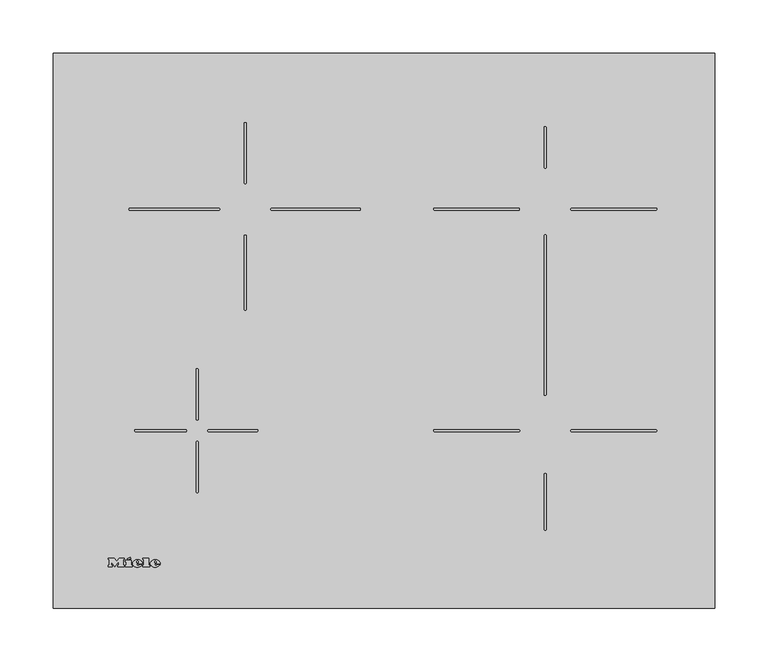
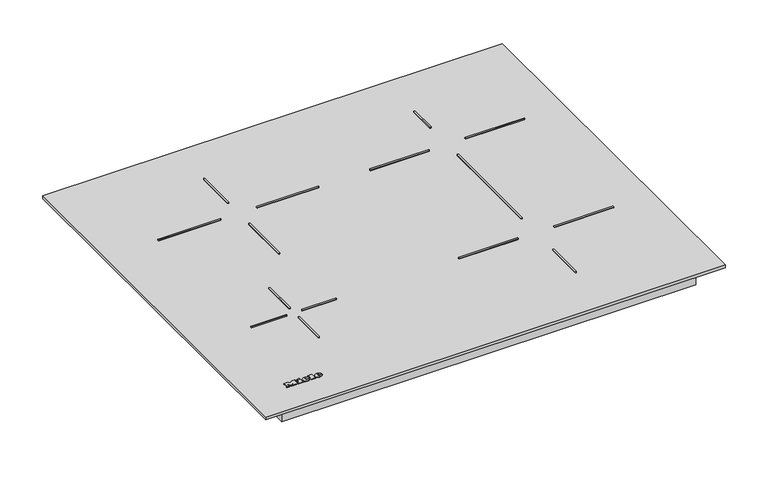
"""IFC4 building model written with IfcOpenShell, lengths in millimetres: proxy geometry, 12399720_GB_KM7363FL : 26736370_GB_12399720_KM7363FL."""

from ifc_helpers import new_model, si_unit, point, frame, frame_2d, origin, origin_with_axes, place, context, project, spatial, polyline, circle_curve, ellipse_curve, trimmed, segment, composite_curve, outline, extrude, source, transform, mapped, element, save
from ifc_brep_helpers import plane_surface, cylinder_surface, revolved_surface, extruded_surface, advanced_brep


def specialty_equipment_5ce986eb(model_context):
    return source(origin(), model_context, "Body", "SolidModel", [
        advanced_brep(
        [(-214.911984, 41.066, 5.0000007), (-214.911984, 41.874, 5.0000007), (-209.559984, 41.874, 5.0000007), (-218.871984, 41.874, 5.0000007), (-216.671984, 39.17, 5.0000007), (-209.695984, 41.066, 5.0000007), (-212.111984, 41.066, 5.0000007), (-214.015984, 40.17, 5.0000007), (-214.911984, 42.898, 5.0000007), (-214.911984, 43.77, 5.0000007), (-213.543984, 43.77, 5.0000007), (-213.543984, 42.898, 5.0000007), (-214.911984, 41.066, 4.0000007), (-214.015984, 40.17, 4.0000007), (-212.111984, 41.066, 4.0000007), (-209.695984, 41.066, 4.0000007), (-216.671984, 39.17, 4.0000007), (-218.871984, 41.874, 4.0000007), (-209.559984, 41.874, 4.0000007), (-214.911984, 41.874, 4.0000007), (-214.911984, 42.898, 4.0000007), (-213.543984, 42.898, 4.0000007), (-213.543984, 43.77, 4.0000007), (-214.911984, 43.77, 4.0000007)],
        [
            (0, 1),
            (1, 2),
            (2, 3, ellipse_curve(frame((-214.215984, 41.874, 5.0000007), z_axis=(0.0, 0.0, 1.0), x_axis=(-1.0, 0.0, 0.0)), 4.656, 3.848)),
            (3, 4, circle_curve(frame((-215.7759404, 42.146, 5.0000007), z_axis=(0.0, 0.0, 1.0), x_axis=(0.0, -1.0, 0.0)), 3.1079688)),
            (4, 5, circle_curve(frame((-214.3091904, 44.258, 5.0000007), z_axis=(0.0, 0.0, 1.0), x_axis=(0.0, -1.0, 0.0)), 5.6098607)),
            (5, 6),
            (6, 7, circle_curve(frame((-213.6249252, 41.81, 5.0000007), z_axis=(0.0, 0.0, -1.0), x_axis=(0.0, -1.0, 0.0)), 1.6859795)),
            (7, 0, circle_curve(frame((-214.015984, 41.066, 5.0000007), z_axis=(0.0, 0.0, -1.0), x_axis=(0.0, -1.0, 0.0)), 0.896)),
            (8, 9),
            (9, 10, circle_curve(frame((-214.227984, 43.77, 5.0000007), z_axis=(0.0, 0.0, -1.0), x_axis=(0.0, -1.0, 0.0)), 0.684)),
            (10, 11),
            (11, 8),
            (12, 13, circle_curve(frame((-214.015984, 41.066, 4.0000007), z_axis=(0.0, 0.0, 1.0), x_axis=(0.0, -1.0, 0.0)), 0.896)),
            (13, 14, circle_curve(frame((-213.6249252, 41.81, 4.0000007), z_axis=(0.0, 0.0, 1.0), x_axis=(0.0, -1.0, 0.0)), 1.6859795)),
            (14, 15),
            (15, 16, circle_curve(frame((-214.3091904, 44.258, 4.0000007), z_axis=(0.0, 0.0, -1.0), x_axis=(0.0, -1.0, 0.0)), 5.6098607)),
            (16, 17, circle_curve(frame((-215.7759404, 42.146, 4.0000007), z_axis=(0.0, 0.0, -1.0), x_axis=(0.0, -1.0, 0.0)), 3.1079688)),
            (17, 18, ellipse_curve(frame((-214.215984, 41.874, 4.0000007), z_axis=(0.0, 0.0, -1.0), x_axis=(-1.0, 0.0, 0.0)), 4.656, 3.848)),
            (18, 19),
            (19, 12),
            (20, 21),
            (21, 22),
            (22, 23, circle_curve(frame((-214.227984, 43.77, 4.0000007), z_axis=(0.0, 0.0, 1.0), x_axis=(0.0, -1.0, 0.0)), 0.684)),
            (23, 20),
            (0, 12),
            (19, 1),
            (18, 2),
            (5, 15),
            (14, 6),
            (17, 3),
            (13, 7),
            (16, 4),
            (8, 20),
            (23, 9),
            (22, 10),
            (21, 11),
        ],
        [
            plane_surface(frame((-214.911984, 41.874, 5.0000007), z_axis=(0.0, 0.0, 1.0), x_axis=(0.0, 1.0, 0.0))),
            plane_surface(frame((-214.911984, 41.874, 4.0000007), z_axis=(0.0, 0.0, -1.0), x_axis=(0.0, -1.0, 0.0))),
            plane_surface(frame((-214.911984, 41.066, 5.0000007), z_axis=(1.0, 0.0, 0.0), x_axis=(0.0, 0.0, -1.0))),
            plane_surface(frame((-214.911984, 41.874, 5.0000007), z_axis=(0.0, -1.0, 0.0), x_axis=(0.0, 0.0, -1.0))),
            plane_surface(frame((-209.695984, 41.066, 5.0000007), z_axis=(0.0, 1.0, 0.0), x_axis=(0.0, 0.0, -1.0))),
            extruded_surface(trimmed(ellipse_curve(frame((-214.215984, 41.874, 3.0000007), z_axis=(0.0, 0.0, 1.0), x_axis=(-1.0, 0.0, 0.0)), 4.656, 3.848), [point((-209.559984, 41.874, 3.0000007))], [point((-218.871984, 41.874, 3.0000007))], True, "CARTESIAN"), (0.0, 0.0, 1.0), 1.0),
            revolved_surface(polyline([(-213.6249252, 40.1240205, 4.0000007), (-213.6249252, 40.1240205, 5.0000007)]), (-213.6249252, 41.81, 4.0000007), (0.0, 0.0, -1.0)),
            revolved_surface(polyline([(-214.015984, 40.17, 4.0000007), (-214.015984, 40.17, 5.0000007)]), (-214.015984, 41.066, 4.0000007), (0.0, 0.0, -1.0)),
            cylinder_surface(frame((-215.7759404, 42.146, 4.0000007), z_axis=(0.0, 0.0, 1.0), x_axis=(0.0, -1.0, 0.0)), 3.1079688),
            cylinder_surface(frame((-214.3091904, 44.258, 4.0000007), z_axis=(0.0, 0.0, 1.0), x_axis=(0.0, -1.0, 0.0)), 5.6098607),
            plane_surface(frame((-214.911984, 42.898, 5.0000007), z_axis=(1.0, 0.0, 0.0), x_axis=(0.0, 0.0, -1.0))),
            revolved_surface(polyline([(-214.227984, 43.086000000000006, 4.0000007), (-214.227984, 43.086000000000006, 5.0000007)]), (-214.227984, 43.77, 4.0000007), (0.0, 0.0, -1.0)),
            plane_surface(frame((-213.543984, 43.77, 5.0000007), z_axis=(-1.0, 0.0, 0.0), x_axis=(0.0, 0.0, -1.0))),
            plane_surface(frame((-213.543984, 42.898, 5.0000007), z_axis=(0.0, 1.0, 0.0), x_axis=(0.0, 0.0, -1.0))),
        ],
        [
            (0, [[1, 2, 3, 4, 5, 6, 7, 8], [9, 10, 11, 12]]),
            (1, [[13, 14, 15, 16, 17, 18, 19, 20], [21, 22, 23, 24]]),
            (2, [[-1, 25, -20, 26]]),
            (3, [[-2, -26, -19, 27]]),
            (4, [[-6, 28, -15, 29]]),
            (5, [[-3, -27, -18, 30]]),
            (6, [[-7, -29, -14, 31]]),
            (7, [[-8, -31, -13, -25]]),
            (8, [[-4, -30, -17, 32]]),
            (9, [[-5, -32, -16, -28]]),
            (10, [[-9, 33, -24, 34]]),
            (11, [[-10, -34, -23, 35]]),
            (12, [[-11, -35, -22, 36]]),
            (13, [[-12, -36, -21, -33]]),
        ],
    ),
        advanced_brep(
        [(-231.607984, 41.066, 5.0000007), (-231.607984, 41.874, 5.0000007), (-226.255984, 41.874, 5.0000007), (-235.567984, 41.874, 5.0000007), (-233.367984, 39.17, 5.0000007), (-226.391984, 41.066, 5.0000007), (-228.807984, 41.066, 5.0000007), (-230.711984, 40.17, 5.0000007), (-231.607984, 42.898, 5.0000007), (-231.607984, 43.77, 5.0000007), (-230.239984, 43.77, 5.0000007), (-230.239984, 42.898, 5.0000007), (-231.607984, 41.066, 4.0000007), (-230.711984, 40.17, 4.0000007), (-228.807984, 41.066, 4.0000007), (-226.391984, 41.066, 4.0000007), (-233.367984, 39.17, 4.0000007), (-235.567984, 41.874, 4.0000007), (-226.255984, 41.874, 4.0000007), (-231.607984, 41.874, 4.0000007), (-231.607984, 42.898, 4.0000007), (-230.239984, 42.898, 4.0000007), (-230.239984, 43.77, 4.0000007), (-231.607984, 43.77, 4.0000007)],
        [
            (0, 1),
            (1, 2),
            (2, 3, ellipse_curve(frame((-230.911984, 41.874, 5.0000007), z_axis=(0.0, 0.0, 1.0), x_axis=(-1.0, 0.0, 0.0)), 4.656, 3.848)),
            (3, 4, circle_curve(frame((-232.4719404, 42.146, 5.0000007), z_axis=(0.0, 0.0, 1.0), x_axis=(0.0, -1.0, 0.0)), 3.1079688)),
            (4, 5, circle_curve(frame((-231.0051904, 44.258, 5.0000007), z_axis=(0.0, 0.0, 1.0), x_axis=(0.0, -1.0, 0.0)), 5.6098607)),
            (5, 6),
            (6, 7, circle_curve(frame((-230.3209252, 41.81, 5.0000007), z_axis=(0.0, 0.0, -1.0), x_axis=(0.0, -1.0, 0.0)), 1.6859795)),
            (7, 0, circle_curve(frame((-230.711984, 41.066, 5.0000007), z_axis=(0.0, 0.0, -1.0), x_axis=(0.0, -1.0, 0.0)), 0.896)),
            (8, 9),
            (9, 10, circle_curve(frame((-230.923984, 43.77, 5.0000007), z_axis=(0.0, 0.0, -1.0), x_axis=(0.0, -1.0, 0.0)), 0.684)),
            (10, 11),
            (11, 8),
            (12, 13, circle_curve(frame((-230.711984, 41.066, 4.0000007), z_axis=(0.0, 0.0, 1.0), x_axis=(0.0, -1.0, 0.0)), 0.896)),
            (13, 14, circle_curve(frame((-230.3209252, 41.81, 4.0000007), z_axis=(0.0, 0.0, 1.0), x_axis=(0.0, -1.0, 0.0)), 1.6859795)),
            (14, 15),
            (15, 16, circle_curve(frame((-231.0051904, 44.258, 4.0000007), z_axis=(0.0, 0.0, -1.0), x_axis=(0.0, -1.0, 0.0)), 5.6098607)),
            (16, 17, circle_curve(frame((-232.4719404, 42.146, 4.0000007), z_axis=(0.0, 0.0, -1.0), x_axis=(0.0, -1.0, 0.0)), 3.1079688)),
            (17, 18, ellipse_curve(frame((-230.911984, 41.874, 4.0000007), z_axis=(0.0, 0.0, -1.0), x_axis=(-1.0, 0.0, 0.0)), 4.656, 3.848)),
            (18, 19),
            (19, 12),
            (20, 21),
            (21, 22),
            (22, 23, circle_curve(frame((-230.923984, 43.77, 4.0000007), z_axis=(0.0, 0.0, 1.0), x_axis=(0.0, -1.0, 0.0)), 0.684)),
            (23, 20),
            (0, 12),
            (19, 1),
            (18, 2),
            (5, 15),
            (14, 6),
            (17, 3),
            (13, 7),
            (16, 4),
            (8, 20),
            (23, 9),
            (22, 10),
            (21, 11),
        ],
        [
            plane_surface(frame((-231.607984, 41.874, 5.0000007), z_axis=(0.0, 0.0, 1.0), x_axis=(0.0, 1.0, 0.0))),
            plane_surface(frame((-231.607984, 41.874, 4.0000007), z_axis=(0.0, 0.0, -1.0), x_axis=(0.0, -1.0, 0.0))),
            plane_surface(frame((-231.607984, 41.066, 5.0000007), z_axis=(1.0, 0.0, 0.0), x_axis=(0.0, 0.0, -1.0))),
            plane_surface(frame((-231.607984, 41.874, 5.0000007), z_axis=(0.0, -1.0, 0.0), x_axis=(0.0, 0.0, -1.0))),
            plane_surface(frame((-226.391984, 41.066, 5.0000007), z_axis=(0.0, 1.0, 0.0), x_axis=(0.0, 0.0, -1.0))),
            extruded_surface(trimmed(ellipse_curve(frame((-230.911984, 41.874, 3.0000007), z_axis=(0.0, 0.0, 1.0), x_axis=(-1.0, 0.0, 0.0)), 4.656, 3.848), [point((-226.255984, 41.874, 3.0000007))], [point((-235.567984, 41.874, 3.0000007))], True, "CARTESIAN"), (0.0, 0.0, 1.0), 1.0),
            revolved_surface(polyline([(-230.3209252, 40.1240205, 4.0000007), (-230.3209252, 40.1240205, 5.0000007)]), (-230.3209252, 41.81, 4.0000007), (0.0, 0.0, -1.0)),
            revolved_surface(polyline([(-230.711984, 40.17, 4.0000007), (-230.711984, 40.17, 5.0000007)]), (-230.711984, 41.066, 4.0000007), (0.0, 0.0, -1.0)),
            cylinder_surface(frame((-232.4719404, 42.146, 4.0000007), z_axis=(0.0, 0.0, 1.0), x_axis=(0.0, -1.0, 0.0)), 3.1079688),
            cylinder_surface(frame((-231.0051904, 44.258, 4.0000007), z_axis=(0.0, 0.0, 1.0), x_axis=(0.0, -1.0, 0.0)), 5.6098607),
            plane_surface(frame((-231.607984, 42.898, 5.0000007), z_axis=(1.0, 0.0, 0.0), x_axis=(0.0, 0.0, -1.0))),
            revolved_surface(polyline([(-230.923984, 43.086000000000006, 4.0000007), (-230.923984, 43.086000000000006, 5.0000007)]), (-230.923984, 43.77, 4.0000007), (0.0, 0.0, -1.0)),
            plane_surface(frame((-230.239984, 43.77, 5.0000007), z_axis=(-1.0, 0.0, 0.0), x_axis=(0.0, 0.0, -1.0))),
            plane_surface(frame((-230.239984, 42.898, 5.0000007), z_axis=(0.0, 1.0, 0.0), x_axis=(0.0, 0.0, -1.0))),
        ],
        [
            (0, [[1, 2, 3, 4, 5, 6, 7, 8], [9, 10, 11, 12]]),
            (1, [[13, 14, 15, 16, 17, 18, 19, 20], [21, 22, 23, 24]]),
            (2, [[-1, 25, -20, 26]]),
            (3, [[-2, -26, -19, 27]]),
            (4, [[-6, 28, -15, 29]]),
            (5, [[-3, -27, -18, 30]]),
            (6, [[-7, -29, -14, 31]]),
            (7, [[-8, -31, -13, -25]]),
            (8, [[-4, -30, -17, 32]]),
            (9, [[-5, -32, -16, -28]]),
            (10, [[-9, 33, -24, 34]]),
            (11, [[-10, -34, -23, 35]]),
            (12, [[-11, -35, -22, 36]]),
            (13, [[-12, -36, -21, -33]]),
        ],
    ),
        extrude(outline(polyline([(-240.351984, 46.698), (-237.631984, 47.962), (-237.031984, 46.666), (-239.743984, 45.402), (-240.351984, 46.698)])), frame((0.0, 0.0, 4.0000007), z_axis=(0.0, 0.0, 1.0), x_axis=(1.0, 0.0, 0.0)), (0.0, 0.0, 1.0), 1.0),
        extrude(outline(polyline([(-242.327984, 45.226), (-236.943984, 45.226), (-236.943984, 40.514), (-236.015984, 40.514), (-236.015984, 39.17), (-242.327984, 39.17), (-242.327984, 40.514), (-241.375984, 40.514), (-241.375984, 43.794), (-242.327984, 43.794), (-242.327984, 45.226)])), frame((0.0, 0.0, 4.0000007), z_axis=(0.0, 0.0, 1.0), x_axis=(1.0, 0.0, 0.0)), (0.0, 0.0, 1.0), 1.0),
        extrude(outline(polyline([(-225.807984, 45.866), (-225.807984, 47.17), (-220.303984, 47.17), (-220.303984, 40.514), (-219.319984, 40.514), (-219.319984, 39.17), (-225.807984, 39.17), (-225.807984, 40.514), (-224.847984, 40.514), (-224.847984, 45.866), (-225.807984, 45.866)])), frame((0.0, 0.0, 4.0000007), z_axis=(0.0, 0.0, 1.0), x_axis=(1.0, 0.0, 0.0)), (0.0, 0.0, 1.0), 1.0),
        extrude(outline(polyline([(-258.271984, 45.866), (-258.271984, 47.17), (-252.695984, 47.17), (-250.351984, 44.17), (-248.015984, 47.17), (-243.143984, 47.17), (-243.143984, 45.866), (-244.159984, 45.866), (-244.159984, 40.514), (-243.143984, 40.514), (-243.143984, 39.17), (-249.527984, 39.17), (-249.527984, 40.514), (-248.543984, 40.514), (-248.543984, 43.9852223), (-252.135984, 39.17), (-255.711984, 43.9171247), (-255.711984, 40.514), (-254.751984, 40.514), (-254.751984, 39.17), (-258.271984, 39.17), (-258.271984, 40.514), (-257.303984, 40.514), (-257.303984, 45.866), (-258.271984, 45.866)])), frame((0.0, 0.0, 4.0000007), z_axis=(0.0, 0.0, 1.0), x_axis=(1.0, 0.0, 0.0)), (0.0, 0.0, 1.0), 1.0),
        extrude(outline(composite_curve([segment(trimmed(circle_curve(frame_2d((-130.0, 454.215881)), 1.0), [point((-131.0, 454.215881))], [point((-129.0, 454.215881))], False, "CARTESIAN"), True, "CONTINUOUS"), segment(polyline([(-129.0, 454.215881), (-129.0, 399.0)]), True, "CONTINUOUS"), segment(trimmed(circle_curve(frame_2d((-130.0, 399.0)), 1.0), [point((-129.0, 399.0))], [point((-131.0, 399.0))], False, "CARTESIAN"), True, "CONTINUOUS"), segment(polyline([(-131.0, 399.0), (-131.0, 454.215881)]), True, "CONTINUOUS")], self_intersect=False)), frame((0.0, 0.0, 4.0000007), z_axis=(0.0, 0.0, 1.0), x_axis=(1.0, 0.0, 0.0)), (0.0, 0.0, 1.0), 1.0),
        extrude(outline(composite_curve([segment(polyline([(-23.0464469, 373.0), (-105.0, 373.0)]), True, "CONTINUOUS"), segment(trimmed(circle_curve(frame_2d((-105.0, 374.0)), 1.0), [point((-105.0, 373.0))], [point((-105.0, 375.0))], False, "CARTESIAN"), True, "CONTINUOUS"), segment(polyline([(-105.0, 375.0), (-23.0464469, 375.0)]), True, "CONTINUOUS"), segment(trimmed(circle_curve(frame_2d((-23.0464469, 374.0)), 1.0), [point((-23.0464469, 375.0))], [point((-23.0464469, 373.0))], False, "CARTESIAN"), True, "CONTINUOUS")], self_intersect=False)), frame((0.0, 0.0, 4.0000007), z_axis=(0.0, 0.0, 1.0), x_axis=(1.0, 0.0, 0.0)), (0.0, 0.0, 1.0), 1.0),
        extrude(outline(composite_curve([segment(trimmed(circle_curve(frame_2d((-237.9080744, 374.0)), 1.0), [point((-237.9080744, 373.0))], [point((-237.9080744, 375.0))], False, "CARTESIAN"), True, "CONTINUOUS"), segment(polyline([(-237.9080744, 375.0), (-155.0, 375.0)]), True, "CONTINUOUS"), segment(trimmed(circle_curve(frame_2d((-155.0, 374.0)), 1.0), [point((-155.0, 375.0))], [point((-155.0, 373.0))], False, "CARTESIAN"), True, "CONTINUOUS"), segment(polyline([(-155.0, 373.0), (-237.9080744, 373.0)]), True, "CONTINUOUS")], self_intersect=False)), frame((0.0, 0.0, 4.0000007), z_axis=(0.0, 0.0, 1.0), x_axis=(1.0, 0.0, 0.0)), (0.0, 0.0, 1.0), 1.0),
        extrude(outline(composite_curve([segment(polyline([(-176.0, 177.5), (-176.0, 223.6606747)]), True, "CONTINUOUS"), segment(trimmed(circle_curve(frame_2d((-175.0, 223.6606747)), 1.0), [point((-176.0, 223.6606747))], [point((-174.0, 223.6606747))], False, "CARTESIAN"), True, "CONTINUOUS"), segment(polyline([(-174.0, 223.6606747), (-174.0, 177.5)]), True, "CONTINUOUS"), segment(trimmed(circle_curve(frame_2d((-175.0, 177.5)), 1.0), [point((-174.0, 177.5))], [point((-176.0, 177.5))], False, "CARTESIAN"), True, "CONTINUOUS")], self_intersect=False)), frame((0.0, 0.0, 4.0000007), z_axis=(0.0, 0.0, 1.0), x_axis=(1.0, 0.0, 0.0)), (0.0, 0.0, 1.0), 1.0),
        extrude(outline(composite_curve([segment(trimmed(circle_curve(frame_2d((-175.0, 155.4410817)), 1.0), [point((-176.0, 155.4410817))], [point((-174.0, 155.4410817))], False, "CARTESIAN"), True, "CONTINUOUS"), segment(polyline([(-174.0, 155.4410817), (-174.0, 109.5)]), True, "CONTINUOUS"), segment(trimmed(circle_curve(frame_2d((-175.0, 109.5)), 1.0), [point((-174.0, 109.5))], [point((-176.0, 109.5))], False, "CARTESIAN"), True, "CONTINUOUS"), segment(polyline([(-176.0, 109.5), (-176.0, 155.4410817)]), True, "CONTINUOUS")], self_intersect=False)), frame((0.0, 0.0, 4.0000007), z_axis=(0.0, 0.0, 1.0), x_axis=(1.0, 0.0, 0.0)), (0.0, 0.0, 1.0), 1.0),
        extrude(outline(composite_curve([segment(polyline([(150.0, 413.4860171), (150.0, 450.2771149)]), True, "CONTINUOUS"), segment(trimmed(circle_curve(frame_2d((151.0, 450.2771149)), 1.0), [point((150.0, 450.2771149))], [point((152.0, 450.2771149))], False, "CARTESIAN"), True, "CONTINUOUS"), segment(polyline([(152.0, 450.2771149), (152.0, 413.4860171)]), True, "CONTINUOUS"), segment(trimmed(circle_curve(frame_2d((151.0, 413.4860171)), 1.0), [point((152.0, 413.4860171))], [point((150.0, 413.4860171))], False, "CARTESIAN"), True, "CONTINUOUS")], self_intersect=False)), frame((0.0, 0.0, 4.0000007), z_axis=(0.0, 0.0, 1.0), x_axis=(1.0, 0.0, 0.0)), (0.0, 0.0, 1.0), 1.0),
        extrude(outline(composite_curve([segment(trimmed(circle_curve(frame_2d((-164.0, 166.5)), 1.0), [point((-164.0, 165.5))], [point((-164.0, 167.5))], False, "CARTESIAN"), True, "CONTINUOUS"), segment(polyline([(-164.0, 167.5), (-119.1108224, 167.5)]), True, "CONTINUOUS"), segment(trimmed(circle_curve(frame_2d((-119.1108224, 166.5)), 1.0), [point((-119.1108224, 167.5))], [point((-119.1108224, 165.5))], False, "CARTESIAN"), True, "CONTINUOUS"), segment(polyline([(-119.1108224, 165.5), (-164.0, 165.5)]), True, "CONTINUOUS")], self_intersect=False)), frame((0.0, 0.0, 4.0000007), z_axis=(0.0, 0.0, 1.0), x_axis=(1.0, 0.0, 0.0)), (0.0, 0.0, 1.0), 1.0),
        extrude(outline(composite_curve([segment(polyline([(-186.0, 165.5), (-232.6272894, 165.5)]), True, "CONTINUOUS"), segment(trimmed(circle_curve(frame_2d((-232.6272894, 166.5)), 1.0), [point((-232.6272894, 165.5))], [point((-232.6272894, 167.5))], False, "CARTESIAN"), True, "CONTINUOUS"), segment(polyline([(-232.6272894, 167.5), (-186.0, 167.5)]), True, "CONTINUOUS"), segment(trimmed(circle_curve(frame_2d((-186.0, 166.5)), 1.0), [point((-186.0, 167.5))], [point((-186.0, 165.5))], False, "CARTESIAN"), True, "CONTINUOUS")], self_intersect=False)), frame((0.0, 0.0, 4.0000007), z_axis=(0.0, 0.0, 1.0), x_axis=(1.0, 0.0, 0.0)), (0.0, 0.0, 1.0), 1.0),
        extrude(outline(composite_curve([segment(polyline([(126.0, 165.5), (47.5296024, 165.5)]), True, "CONTINUOUS"), segment(trimmed(circle_curve(frame_2d((47.5296024, 166.5)), 1.0), [point((47.5296024, 165.5))], [point((47.5296024, 167.5))], False, "CARTESIAN"), True, "CONTINUOUS"), segment(polyline([(47.5296024, 167.5), (126.0, 167.5)]), True, "CONTINUOUS"), segment(trimmed(circle_curve(frame_2d((126.0, 166.5)), 1.0), [point((126.0, 167.5))], [point((126.0, 165.5))], False, "CARTESIAN"), True, "CONTINUOUS")], self_intersect=False)), frame((0.0, 0.0, 4.0000007), z_axis=(0.0, 0.0, 1.0), x_axis=(1.0, 0.0, 0.0)), (0.0, 0.0, 1.0), 1.0),
        extrude(outline(composite_curve([segment(polyline([(150.0, 74.2663736), (150.0, 125.4452272)]), True, "CONTINUOUS"), segment(trimmed(circle_curve(frame_2d((151.0, 125.4452272)), 1.0), [point((150.0, 125.4452272))], [point((152.0, 125.4452272))], False, "CARTESIAN"), True, "CONTINUOUS"), segment(polyline([(152.0, 125.4452272), (152.0, 74.2663736)]), True, "CONTINUOUS"), segment(trimmed(circle_curve(frame_2d((151.0, 74.2663736)), 1.0), [point((152.0, 74.2663736))], [point((150.0, 74.2663736))], False, "CARTESIAN"), True, "CONTINUOUS")], self_intersect=False)), frame((0.0, 0.0, 4.0000007), z_axis=(0.0, 0.0, 1.0), x_axis=(1.0, 0.0, 0.0)), (0.0, 0.0, 1.0), 1.0),
        extrude(outline(composite_curve([segment(polyline([(152.0, 349.0843418), (152.0, 200.5399283)]), True, "CONTINUOUS"), segment(trimmed(circle_curve(frame_2d((151.0, 200.5399283)), 1.0), [point((152.0, 200.5399283))], [point((150.0, 200.5399283))], False, "CARTESIAN"), True, "CONTINUOUS"), segment(polyline([(150.0, 200.5399283), (150.0, 349.0843418)]), True, "CONTINUOUS"), segment(trimmed(circle_curve(frame_2d((151.0, 349.0843418)), 1.0), [point((150.0, 349.0843418))], [point((152.0, 349.0843418))], False, "CARTESIAN"), True, "CONTINUOUS")], self_intersect=False)), frame((0.0, 0.0, 4.0000007), z_axis=(0.0, 0.0, 1.0), x_axis=(1.0, 0.0, 0.0)), (0.0, 0.0, 1.0), 1.0),
        extrude(outline(composite_curve([segment(trimmed(circle_curve(frame_2d((176.0, 166.5)), 1.0), [point((176.0, 165.5))], [point((176.0, 167.5))], False, "CARTESIAN"), True, "CONTINUOUS"), segment(polyline([(176.0, 167.5), (254.4703976, 167.5)]), True, "CONTINUOUS"), segment(trimmed(circle_curve(frame_2d((254.4703976, 166.5)), 1.0), [point((254.4703976, 167.5))], [point((254.4703976, 165.5))], False, "CARTESIAN"), True, "CONTINUOUS"), segment(polyline([(254.4703976, 165.5), (176.0, 165.5)]), True, "CONTINUOUS")], self_intersect=False)), frame((0.0, 0.0, 4.0000007), z_axis=(0.0, 0.0, 1.0), x_axis=(1.0, 0.0, 0.0)), (0.0, 0.0, 1.0), 1.0),
        extrude(outline(composite_curve([segment(polyline([(125.9136914, 373.0), (47.444481, 373.0)]), True, "CONTINUOUS"), segment(trimmed(circle_curve(frame_2d((47.444481, 374.0)), 1.0), [point((47.444481, 373.0))], [point((47.444481, 375.0))], False, "CARTESIAN"), True, "CONTINUOUS"), segment(polyline([(47.444481, 375.0), (125.9136914, 375.0)]), True, "CONTINUOUS"), segment(trimmed(circle_curve(frame_2d((125.9136914, 374.0)), 1.0), [point((125.9136914, 375.0))], [point((125.9136914, 373.0))], False, "CARTESIAN"), True, "CONTINUOUS")], self_intersect=False)), frame((0.0, 0.0, 4.0000007), z_axis=(0.0, 0.0, 1.0), x_axis=(1.0, 0.0, 0.0)), (0.0, 0.0, 1.0), 1.0),
        extrude(outline(composite_curve([segment(trimmed(circle_curve(frame_2d((176.0863086, 374.0)), 1.0), [point((176.0863086, 373.0))], [point((176.0863086, 375.0))], False, "CARTESIAN"), True, "CONTINUOUS"), segment(polyline([(176.0863086, 375.0), (254.555519, 375.0)]), True, "CONTINUOUS"), segment(trimmed(circle_curve(frame_2d((254.555519, 374.0)), 1.0), [point((254.555519, 375.0))], [point((254.555519, 373.0))], False, "CARTESIAN"), True, "CONTINUOUS"), segment(polyline([(254.555519, 373.0), (176.0863086, 373.0)]), True, "CONTINUOUS")], self_intersect=False)), frame((0.0, 0.0, 4.0000007), z_axis=(0.0, 0.0, 1.0), x_axis=(1.0, 0.0, 0.0)), (0.0, 0.0, 1.0), 1.0),
        extrude(outline(composite_curve([segment(polyline([(-131.0, 280.1710047), (-131.0, 348.8348457)]), True, "CONTINUOUS"), segment(trimmed(circle_curve(frame_2d((-130.0, 348.8348457)), 1.0), [point((-131.0, 348.8348457))], [point((-129.0, 348.8348457))], False, "CARTESIAN"), True, "CONTINUOUS"), segment(polyline([(-129.0, 348.8348457), (-129.0, 280.1710047)]), True, "CONTINUOUS"), segment(trimmed(circle_curve(frame_2d((-130.0, 280.1710047)), 1.0), [point((-129.0, 280.1710047))], [point((-131.0, 280.1710047))], False, "CARTESIAN"), True, "CONTINUOUS")], self_intersect=False)), frame((0.0, 0.0, 4.0000007), z_axis=(0.0, 0.0, 1.0), x_axis=(1.0, 0.0, 0.0)), (0.0, 0.0, 1.0), 1.0),
        extrude(outline(polyline([(186.7938197, 480.0), (186.7938197, 362.7202614), (189.0, 362.7202614), (189.0, 76.0), (-105.0, 76.0), (-105.0, 480.0), (186.7938197, 480.0)])), frame((0.0, 0.0, -49.1723575), z_axis=(0.0, 0.0, 1.0), x_axis=(1.0, 0.0, 0.0)), (0.0, 0.0, 1.0), 26.1723575),
        extrude(outline(polyline([(279.0, 504.0), (279.0, 16.0), (-279.0, 16.0), (-279.0, 504.0), (279.0, 504.0)])), frame((0.0, 0.0, -23.0), z_axis=(0.0, 0.0, 1.0), x_axis=(1.0, 0.0, 0.0)), (0.0, 0.0, 1.0), 23.0),
        extrude(outline(polyline([(309.75, 520.0), (309.75, 0.0), (-309.75, 0.0), (-309.75, 520.0), (309.75, 520.0)])), origin_with_axes(), (0.0, 0.0, 1.0), 4.0000007),
        extrude(outline(polyline([(189.6227397, 383.1708126), (197.0, 383.1708126), (197.0, 381.9151088), (190.8784436, 381.9151088), (190.8784436, 378.6188861), (196.529111, 378.6188861), (196.529111, 377.3631822), (190.8784436, 377.3631822), (190.8784436, 374.3808855), (196.843037, 374.3808855), (196.843037, 373.1251816), (189.6227397, 373.1251816), (189.6227397, 383.1708126)])), frame((0.0, 0.0, -55.9814925), z_axis=(0.0, 0.0, 1.0), x_axis=(1.0, 0.0, 0.0)), (0.0, 0.0, 1.0), 1.0),
        extrude(outline(polyline([(198.8835558, 383.1708126), (205.1620752, 383.1708126), (205.1620752, 381.9151088), (200.1392597, 381.9151088), (200.1392597, 373.1251816), (198.8835558, 373.1251816), (198.8835558, 383.1708126)])), frame((0.0, 0.0, -55.9814925), z_axis=(0.0, 0.0, 1.0), x_axis=(1.0, 0.0, 0.0)), (0.0, 0.0, 1.0), 1.0),
        advanced_brep(
        [(174.0, 378.1708126, -42.9814925), (174.0, 378.1708126, -26.9814925), (188.7476293, 378.1708126, -42.9814925), (204.7476293, 378.1708126, -26.9814925), (188.7476293, 378.1708126, -54.9814925), (204.7476293, 378.1708126, -54.9814925)],
        [
            (0, 1, circle_curve(frame((174.0, 378.1708126, -34.9814925), z_axis=(-1.0, 0.0, 0.0), x_axis=(0.0, 0.0, 1.0)), 8.0)),
            (1, 0, circle_curve(frame((174.0, 378.1708126, -34.9814925), z_axis=(-1.0, 0.0, 0.0), x_axis=(0.0, 0.0, 1.0)), 8.0)),
            (0, 2),
            (2, 3, ellipse_curve(frame((196.7476293, 378.1708126, -34.9814925), z_axis=(-0.7071067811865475, 0.0, 0.7071067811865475), x_axis=(-0.7071067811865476, 0.0, -0.7071067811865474)), 11.3137085, 8.0)),
            (3, 1),
            (3, 2, ellipse_curve(frame((196.7476293, 378.1708126, -34.9814925), z_axis=(-0.7071067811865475, 0.0, 0.7071067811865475), x_axis=(-0.7071067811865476, 0.0, -0.7071067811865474)), 11.3137085, 8.0)),
            (4, 5, circle_curve(frame((196.7476293, 378.1708126, -54.9814925), z_axis=(0.0, 0.0, -1.0), x_axis=(1.0, 0.0, 0.0)), 8.0)),
            (5, 4, circle_curve(frame((196.7476293, 378.1708126, -54.9814925), z_axis=(0.0, 0.0, -1.0), x_axis=(1.0, 0.0, 0.0)), 8.0)),
            (2, 4),
            (5, 3),
        ],
        [
            plane_surface(frame((174.0, 0.0, -34.9814925), z_axis=(-1.0, 0.0, 0.0), x_axis=(0.0, -1.0, 0.0))),
            cylinder_surface(frame((174.0, 378.1708126, -34.9814925), z_axis=(-1.0, 0.0, 0.0), x_axis=(0.0, 0.0, 1.0)), 8.0),
            plane_surface(frame((196.7476293, 0.0, -54.9814925), z_axis=(0.0, 0.0, -1.0), x_axis=(0.0, -1.0, 0.0))),
            cylinder_surface(frame((196.7476293, 378.1708126, -34.9814925), z_axis=(0.0, 0.0, 1.0), x_axis=(1.0, 0.0, 0.0)), 8.0),
        ],
        [
            (0, [[1, 2]]),
            (1, [[-1, 3, 4, 5]]),
            (1, [[-2, -5, 6, -3]]),
            (2, [[7, 8]]),
            (3, [[-4, 9, -8, 10]]),
            (3, [[-6, -10, -7, -9]]),
        ],
    ),
    ])


if __name__ == "__main__":
    model = new_model("IFC4")
    model_context = context("Model", 3, world=origin())
    ifc_project = project(units=[si_unit("LENGTHUNIT", "METRE", prefix="MILLI")], contexts=[model_context])
    site = spatial("IfcSite", under=ifc_project)
    building = spatial("IfcBuilding", under=site)
    placement = place(None, origin())
    specialty_equipment_shape = specialty_equipment_5ce986eb(model_context)
    element("IfcBuildingElementProxy", 1, Name="12399720_GB_KM7363FL : 26736370_GB_12399720_KM7363FL", ObjectType="12399720_GB_KM7363FL : 26736370_GB_12399720_KM7363FL", at=placement, inside=building, context=model_context, shape_type="MappedRepresentation", body=[
        mapped(specialty_equipment_shape, transform((0.0, 0.0, 0.0), x_axis=(1.0, 0.0, 0.0), y_axis=(0.0, 1.0, 0.0), z_axis=(0.0, 0.0, 1.0))),
    ])
    save(model, "model.ifc")
